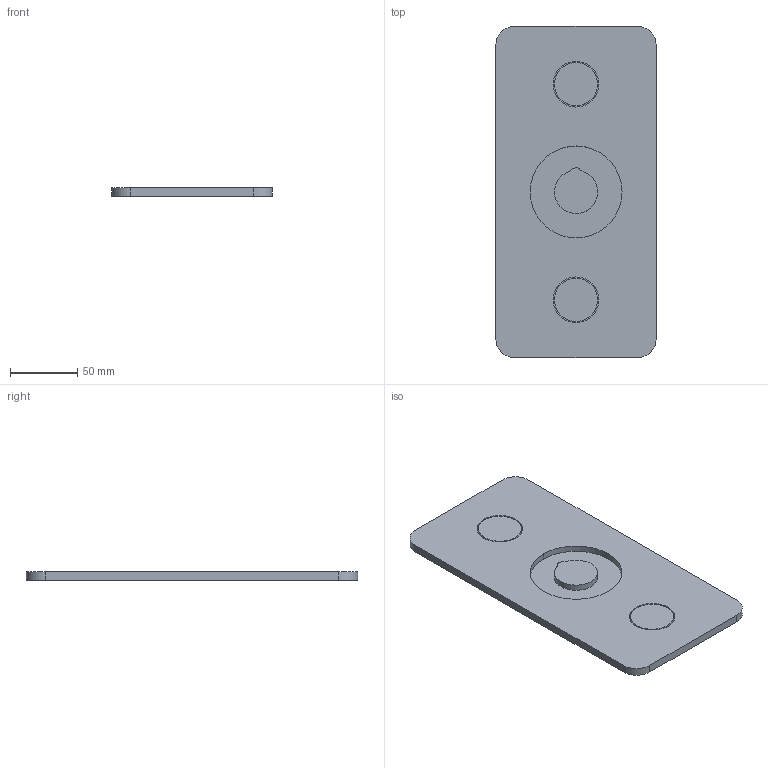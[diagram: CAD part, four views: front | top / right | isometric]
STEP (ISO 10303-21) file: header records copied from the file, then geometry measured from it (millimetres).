
FILE_DESCRIPTION(('FreeCAD Model'),'2;1');
FILE_NAME('Open CASCADE Shape Model','2024-08-09T23:13:39',('Author'),( ''),'Open CASCADE STEP processor 7.6','FreeCAD','Unknown');
FILE_SCHEMA(('AUTOMOTIVE_DESIGN { 1 0 10303 214 1 1 1 1 }'));
Length unit declared in the file: millimetre
Products named in the file (2): TopLevelAssembly; Połączona geometria bryłowa
Assembly tree (1 placements, depth 2):
  TopLevelAssembly
    Połączona geometria bryłowa
Bounding box: 119 x 246 x 6 mm (x, y, z)
Volume: 160428.1 mm3; surface area: 65883.7 mm2
Topology: 1 solids, 1 shells, 31 faces, 69 edges, 46 vertices
Faces by surface type: cylinder 19, plane 12
Entity records: 921 total; most frequent: DIRECTION 173, CARTESIAN_POINT 148, ORIENTED_EDGE 138, AXIS2_PLACEMENT_3D 71, EDGE_CURVE 69, VERTEX_POINT 46, CIRCLE 38, FACE_BOUND 37
